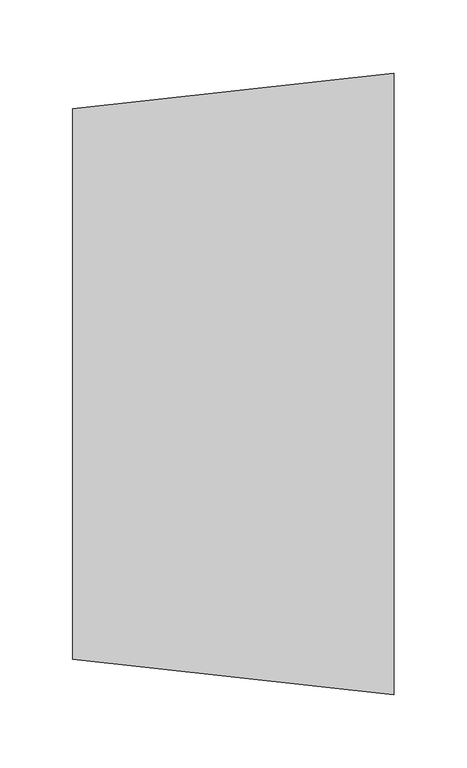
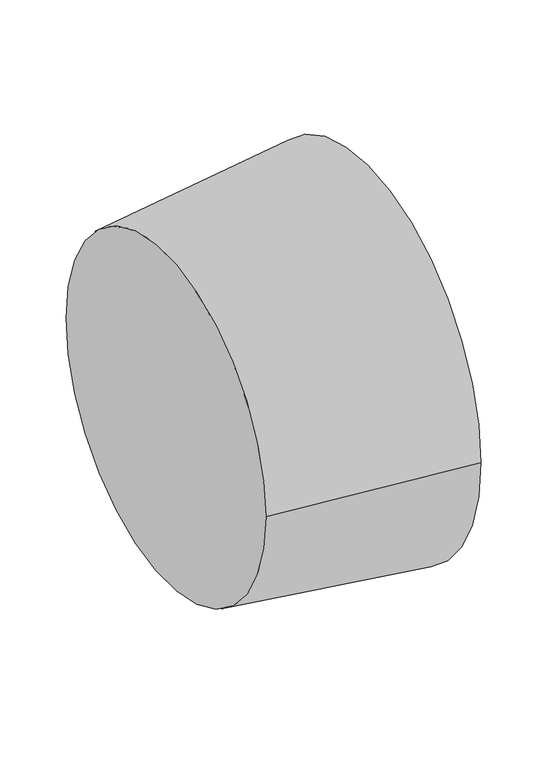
"""IFC4 building model written with IfcOpenShell, lengths in millimetres: pipe fitting geometry, ADSK_ДетальСтальнаяСварная_Переход_ГОСТ17378-2001 : Исполнение 2."""

import ifcopenshell
import ifcopenshell.guid

model = None  # the IFC model being written
_history = None  # IfcOwnerHistory: only IFC2X3 demands one
_inside = {}  # id of a spatial element -> (the spatial element, [elements in it])
_under = {}  # id of a project, library or spatial element -> (it, [spatial elements below it])
_declared = {}  # id of a project -> (the project, [libraries it declares])
_typed = {}  # id of a type object -> (the type object, [elements of that type])
_made_of = {}  # id of a material, layer set ... -> (it, [elements and type objects made of it])


def new_model(schema):
    """Start an empty IFC model of exactly this schema.

    Asked for "IFC4X3", IfcOpenShell would pick the latest addendum, in which some entities
    have other attributes; the version numbers below select the first issue.
    IFC2X3 requires an IfcOwnerHistory on every rooted entity: one is made here for all.
    """
    global model, _history
    if schema == "IFC4X3":
        model = ifcopenshell.file(schema_version=(4, 3, 0, 0))
    else:
        model = ifcopenshell.file(schema=schema)
    _inside.clear()
    _under.clear()
    _declared.clear()
    _typed.clear()
    _made_of.clear()
    _history = None
    if model.schema == "IFC2X3":
        org = make("IfcOrganization", Name="unknown")
        user = make(
            "IfcPersonAndOrganization",
            ThePerson=make("IfcPerson", FamilyName="unknown"),
            TheOrganization=org,
        )
        app = make(
            "IfcApplication",
            ApplicationDeveloper=org,
            Version="unknown",
            ApplicationFullName="unknown",
            ApplicationIdentifier="unknown",
        )
        _history = make(
            "IfcOwnerHistory",
            OwningUser=user,
            OwningApplication=app,
            ChangeAction="ADDED",
            CreationDate=0,
        )
    return model


def make(cls, **values):
    """One entity of the class cls with the attributes given. An attribute that is None is left unset."""
    return model.create_entity(
        cls, **{name: value for name, value in values.items() if value is not None}
    )


def rooted(cls, **values):
    """An entity with a GlobalId (a new one), such as an element, a storey or a relation."""
    return make(cls, GlobalId=ifcopenshell.guid.new(), OwnerHistory=_history, **values)


def si_unit(unit_type, name, prefix=None):
    """IfcSIUnit, for example si_unit("LENGTHUNIT", "METRE", prefix="MILLI")."""
    return make("IfcSIUnit", UnitType=unit_type, Prefix=prefix, Name=name)


def assignment(units):
    """IfcUnitAssignment: the units of a project."""
    return None if units is None else make("IfcUnitAssignment", Units=units)


def point(xyz):
    """IfcCartesianPoint."""
    return None if xyz is None else make("IfcCartesianPoint", Coordinates=xyz)


def direction(xyz):
    """IfcDirection."""
    return None if xyz is None else make("IfcDirection", DirectionRatios=xyz)


def frame(location, z_axis=None, x_axis=None):
    """IfcAxis2Placement3D, a coordinate frame: its origin and axes. An axis left out is left unset."""
    return make(
        "IfcAxis2Placement3D",
        Location=point(location),
        Axis=direction(z_axis),
        RefDirection=direction(x_axis),
    )


def origin():
    """The frame at (0, 0, 0) with its axes left unset."""
    return frame((0.0, 0.0, 0.0))


def place(relative_to, where):
    """IfcLocalPlacement: puts the frame where relative to a parent placement (None: the world)."""
    return make(
        "IfcLocalPlacement", PlacementRelTo=relative_to, RelativePlacement=where
    )


def context(
    kind, dimensions, precision=None, world=None, true_north=None, identifier=None
):
    """IfcGeometricRepresentationContext, for example the 3D "Model" context."""
    return make(
        "IfcGeometricRepresentationContext",
        ContextIdentifier=identifier,
        ContextType=kind,
        CoordinateSpaceDimension=dimensions,
        Precision=precision,
        WorldCoordinateSystem=world,
        TrueNorth=true_north,
    )


def project(units=None, contexts=None):
    """IfcProject with its units and contexts."""
    return rooted(
        "IfcProject",
        Name="project",
        RepresentationContexts=contexts,
        UnitsInContext=assignment(units),
    )


def spatial(cls, under=None, at=None, **own):
    """A site, building, storey or space (cls), placed at a placement, below another one or the project."""
    s = rooted(cls, ObjectPlacement=at, **own)
    if under is not None:
        _under.setdefault(under.id(), (under, []))[1].append(s)
    return s


def polyline(points):
    """IfcPolyline through the points."""
    return make("IfcPolyline", Points=[point(p) for p in points])


def circle_curve(where, radius):
    """IfcCircle in the frame where."""
    return make("IfcCircle", Position=where, Radius=radius)


def shape(context_of_items, identifier, shape_type, items):
    """IfcShapeRepresentation: the items that make up one representation, for example the "Body"."""
    return make(
        "IfcShapeRepresentation",
        ContextOfItems=context_of_items,
        RepresentationIdentifier=identifier,
        RepresentationType=shape_type,
        Items=items,
    )


def source(mapping_origin, context_of_items, identifier, shape_type, items):
    """IfcRepresentationMap: a shape defined once, which mapped items show again and again."""
    return make(
        "IfcRepresentationMap",
        MappingOrigin=mapping_origin,
        MappedRepresentation=shape(context_of_items, identifier, shape_type, items),
    )


def transform(
    local_origin,
    x_axis=None,
    y_axis=None,
    z_axis=None,
    scale=None,
    scale2=None,
    scale3=None,
    uniform=True,
):
    """IfcCartesianTransformationOperator3D, or its non-uniform kind. x_axis, y_axis, z_axis: its Axis1, 2, 3."""
    if uniform:
        return make(
            "IfcCartesianTransformationOperator3D",
            Axis1=direction(x_axis),
            Axis2=direction(y_axis),
            LocalOrigin=point(local_origin),
            Scale=scale,
            Axis3=direction(z_axis),
        )
    return make(
        "IfcCartesianTransformationOperator3DnonUniform",
        Axis1=direction(x_axis),
        Axis2=direction(y_axis),
        LocalOrigin=point(local_origin),
        Scale=scale,
        Axis3=direction(z_axis),
        Scale2=scale2,
        Scale3=scale3,
    )


def mapped(mapping_source, mapping_target):
    """IfcMappedItem: shows the shape of a source again, moved by a transform."""
    return make(
        "IfcMappedItem", MappingSource=mapping_source, MappingTarget=mapping_target
    )


def made_of(thing, what):
    """Note that an element or type object is made of a material, layer set ...; save() writes the relation."""
    if what is not None:
        _made_of.setdefault(what.id(), (what, []))[1].append(thing)
    return thing


def element(
    cls,
    number,
    at=None,
    inside=None,
    cuts=None,
    type_object=None,
    material=None,
    context=None,
    identifier="Body",
    shape_type=None,
    held_by="IfcProductDefinitionShape",
    body=None,
    shapes=None,
    **own,
):
    """One element of the class cls, such as IfcWall. Its Tag is "e" and its number.

    at: its placement. inside: the storey or other place that contains it. cuts: it is an
    opening in that element (IfcRelVoidsElement). A single representation is given by context,
    identifier, shape_type and body (its items); several are given by shapes. held_by: the class
    of the entity that holds the representations. save() writes the other relations.
    """
    e = rooted(cls, Tag="e%d" % number, ObjectPlacement=at, **own)
    if body is not None:
        shapes = [shape(context, identifier, shape_type, body)]
    if shapes is not None:
        e.Representation = make(held_by, Representations=shapes)
    if inside is not None:
        _inside.setdefault(inside.id(), (inside, []))[1].append(e)
    if cuts is not None:
        rooted(
            "IfcRelVoidsElement", RelatingBuildingElement=cuts, RelatedOpeningElement=e
        )
    if type_object is not None:
        _typed.setdefault(type_object.id(), (type_object, []))[1].append(e)
    return made_of(e, material)


def aggregate(whole, parts):
    """IfcRelAggregates: a whole, such as a stair, and the parts it consists of."""
    return rooted("IfcRelAggregates", RelatingObject=whole, RelatedObjects=parts)


def save(model, path):
    """Write the relations noted so far, then the file.

    IfcRelAggregates (storeys below a building ...), IfcRelContainedInSpatialStructure (elements
    in a storey), IfcRelDefinesByType, IfcRelAssociatesMaterial and IfcRelDeclares: one each for
    every whole, place, type object, material and project.
    """
    for whole, parts in _under.values():
        aggregate(whole, parts)
    for where, things in _inside.values():
        rooted(
            "IfcRelContainedInSpatialStructure",
            RelatedElements=things,
            RelatingStructure=where,
        )
    for kind, things in _typed.values():
        rooted("IfcRelDefinesByType", RelatedObjects=things, RelatingType=kind)
    for what, things in _made_of.values():
        rooted("IfcRelAssociatesMaterial", RelatedObjects=things, RelatingMaterial=what)
    for by, libraries in _declared.values():
        rooted("IfcRelDeclares", RelatingContext=by, RelatedDefinitions=libraries)
    model.write(path)


def plane_surface(at):
    """IfcPlane: the flat surface through the origin of the frame at, square to its z axis."""
    return make("IfcPlane", Position=at)


def revolved_surface(curve, axis_point, axis_direction):
    """IfcSurfaceOfRevolution: the curve turned about the line through axis_point along axis_direction."""
    return make(
        "IfcSurfaceOfRevolution",
        SweptCurve=make("IfcArbitraryOpenProfileDef", ProfileType="CURVE", Curve=curve),
        AxisPosition=make("IfcAxis1Placement", Location=point(axis_point), Axis=direction(axis_direction)),
    )


def advanced_brep(points, edges, surfaces, faces):
    """IfcAdvancedBrep: a solid bounded by faces that lie on surfaces and meet in shared edges.

    An edge is (start, end): straight between two places in points (the first is 0);
    or (start, end, curve); or (start, end, curve, False) where it runs against its curve.
    A face is (place in surfaces, loops), or (place, loops, False) where it looks against
    its surface's normal. A loop lists edges by number (the first is 1), with a minus sign
    where the edge is run from its end to its start. The first loop is the outer one.
    """
    corners = [point(p) for p in points]
    vertices = [make("IfcVertexPoint", VertexGeometry=c) for c in corners]
    made = []
    for start, end, *more in edges:
        made.append(
            make(
                "IfcEdgeCurve",
                EdgeStart=vertices[start],
                EdgeEnd=vertices[end],
                EdgeGeometry=more[0] if more else make("IfcPolyline", Points=[corners[start], corners[end]]),
                SameSense=more[1] if len(more) > 1 else True,
            )
        )
    hull = []
    for where, loops, *sense in faces:
        bounds = []
        for j, loop in enumerate(loops):
            ring = [make("IfcOrientedEdge", EdgeElement=made[abs(k) - 1], Orientation=k > 0) for k in loop]
            bounds.append(
                make(
                    "IfcFaceOuterBound" if j == 0 else "IfcFaceBound",
                    Bound=make("IfcEdgeLoop", EdgeList=ring),
                    Orientation=True,
                )
            )
        hull.append(make("IfcAdvancedFace", Bounds=bounds, FaceSurface=surfaces[where], SameSense=sense[0] if sense else True))
    return make("IfcAdvancedBrep", Outer=make("IfcClosedShell", CfsFaces=hull))


def pipe_fitting_89ed2f8b(model_context):
    return source(origin(), model_context, "Body", "AdvancedBrep", [
        advanced_brep(
        [(220.0, -213.0, 0.0), (220.0, 213.0, 0.0), (0.0, -188.5, 0.0), (0.0, 188.5, 0.0)],
        [
            (0, 1, circle_curve(frame((220.0, 0.0, 0.0), z_axis=(1.0, 0.0, 0.0), x_axis=(0.0, -1.0, 0.0)), 213.0)),
            (1, 0, circle_curve(frame((220.0, 0.0, 0.0), z_axis=(1.0, 0.0, 0.0), x_axis=(0.0, 1.0, 0.0)), 213.0)),
            (2, 3, circle_curve(frame((0.0, 0.0, 0.0), z_axis=(-1.0, 0.0, 0.0), x_axis=(0.0, 1.0, 0.0)), 188.5)),
            (3, 2, circle_curve(frame((0.0, 0.0, 0.0), z_axis=(-1.0, 0.0, 0.0), x_axis=(0.0, -1.0, 0.0)), 188.5)),
            (3, 1),
            (0, 2),
        ],
        [
            plane_surface(frame((220.0, 0.0, 0.0), z_axis=(1.0, 0.0, 0.0), x_axis=(0.0, 0.0, -1.0))),
            plane_surface(frame((0.0, 0.0, 0.0), z_axis=(-1.0, 0.0, 0.0), x_axis=(0.0, 0.0, -1.0))),
            revolved_surface(polyline([(0.0, 188.49999999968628, 0.0), (220.0, 213.0, 0.0)]), (-1692.6530612, 0.0, 0.0), (1.0, 0.0, 0.0)),
            revolved_surface(polyline([(0.0, -188.49999999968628, 0.0), (220.0, -213.0, 0.0)]), (-1692.6530612, 0.0, 0.0), (1.0, 0.0, 0.0)),
        ],
        [
            (0, [[1, 2]]),
            (1, [[3, 4]]),
            (2, [[-4, 5, -1, 6]]),
            (3, [[-3, -6, -2, -5]]),
        ],
    ),
    ])


if __name__ == "__main__":
    model = new_model("IFC4")
    model_context = context("Model", 3, world=origin())
    ifc_project = project(units=[si_unit("LENGTHUNIT", "METRE", prefix="MILLI")], contexts=[model_context])
    site = spatial("IfcSite", under=ifc_project)
    building = spatial("IfcBuilding", under=site)
    placement = place(None, origin())
    pipe_fitting_shape = pipe_fitting_89ed2f8b(model_context)
    element("IfcPipeFitting", 1, ObjectType="ADSK_ДетальСтальнаяСварная_Переход_ГОСТ17378-2001 : Исполнение 2", at=placement, inside=building, context=model_context, shape_type="MappedRepresentation", body=[
        mapped(pipe_fitting_shape, transform((0.0, 0.0, 0.0), x_axis=(1.0, 0.0, 0.0), y_axis=(0.0, 1.0, 0.0), z_axis=(0.0, 0.0, 1.0))),
    ])
    save(model, "model.ifc")
